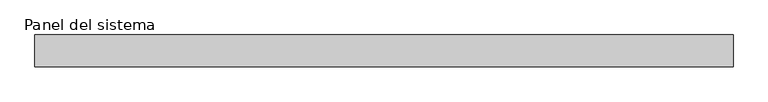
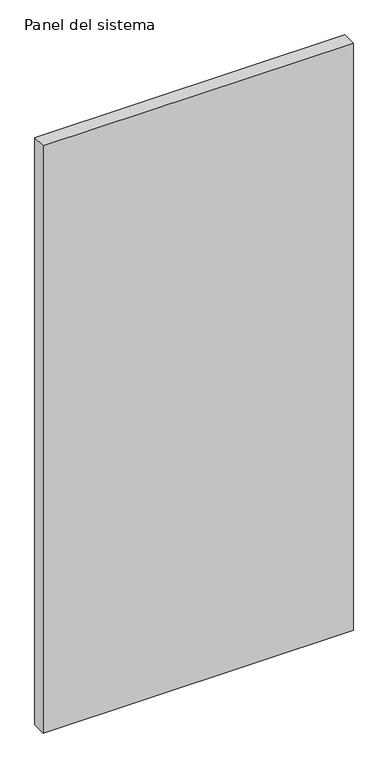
"""IFC4 building model written with IfcOpenShell, lengths in millimetres: plate geometry, Panel del sistema : Hiansa Panel - Fachada Panel SEMILISO Vert - 50mm."""

from ifc_helpers import new_model, si_unit, origin, origin_with_axes, place, context, project, spatial, polyline, outline, extrude, source, transform, mapped, element, save


def panel_del_sistema_0b9e4619(model_context):
    return source(origin(), model_context, "Body", "SweptSolid", [
        extrude(outline(polyline([(550.0000002, -50.0), (-550.0000002, -50.0), (-550.0000002, 0.0), (550.0000002, 0.0), (550.0000002, -50.0)])), origin_with_axes(), (0.0, 0.0, 1.0), 2200.0),
    ])


if __name__ == "__main__":
    model = new_model("IFC4")
    model_context = context("Model", 3, world=origin())
    ifc_project = project(units=[si_unit("LENGTHUNIT", "METRE", prefix="MILLI")], contexts=[model_context])
    site = spatial("IfcSite", under=ifc_project)
    building = spatial("IfcBuilding", under=site)
    placement = place(None, origin())
    panel_del_sistema_shape = panel_del_sistema_0b9e4619(model_context)
    element("IfcPlate", 1, ObjectType="Panel del sistema : Hiansa Panel - Fachada Panel SEMILISO Vert - 50mm", at=placement, inside=building, context=model_context, shape_type="MappedRepresentation", body=[
        mapped(panel_del_sistema_shape, transform((0.0, 0.0, 0.0), x_axis=(1.0, 0.0, 0.0), y_axis=(0.0, 1.0, 0.0), z_axis=(0.0, 0.0, 1.0))),
    ])
    save(model, "model.ifc")
